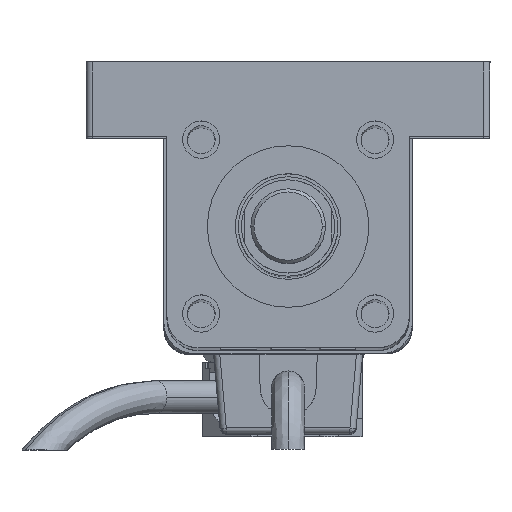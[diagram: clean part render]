
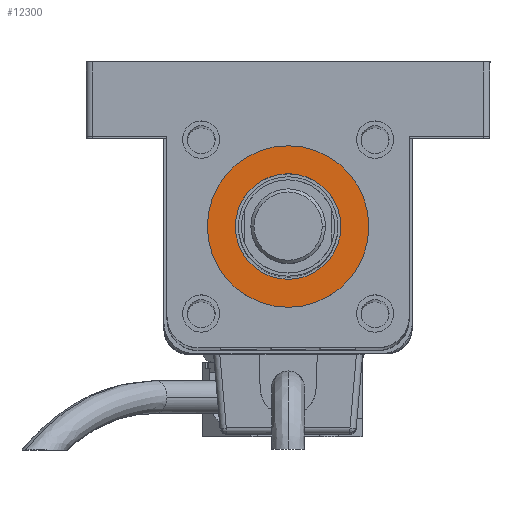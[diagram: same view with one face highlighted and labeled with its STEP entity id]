
A CAD part, top view. The second image highlights one B-rep face of the part: STEP entity #12300.
In plain terms, the highlighted planar face has unit normal (0, 0, 1) as drawn and (0, 0, -1) by its records, which use the part's own axes.
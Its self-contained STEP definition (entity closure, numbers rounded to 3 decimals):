
#32 = EDGE_LOOP ( 'NONE', ( #2343, #24050 ) ) ;
#656 = FACE_OUTER_BOUND ( 'NONE', #6384, .T. ) ;
#1198 = CARTESIAN_POINT ( 'NONE',  ( 6.5, -19.5, -3. ) ) ;
#1217 = CARTESIAN_POINT ( 'NONE',  ( 19.5, -19.5, -3. ) ) ;
#1958 = ORIENTED_EDGE ( 'NONE', *, *, #21818, .T. ) ;
#2343 = ORIENTED_EDGE ( 'NONE', *, *, #25795, .F. ) ;
#4324 = DIRECTION ( 'NONE',  ( -1., 0., 0. ) ) ;
#4441 = CIRCLE ( 'NONE', #7600, 8.5 ) ;
#4660 = DIRECTION ( 'NONE',  ( -1., 0., 0. ) ) ;
#5012 = VERTEX_POINT ( 'NONE', #9878 ) ;
#6293 = VERTEX_POINT ( 'NONE', #14860 ) ;
#6384 = EDGE_LOOP ( 'NONE', ( #23175, #1958 ) ) ;
#6415 = CIRCLE ( 'NONE', #19203, 8.5 ) ;
#7600 = AXIS2_PLACEMENT_3D ( 'NONE', #12876, #21632, #8478 ) ;
#8088 = DIRECTION ( 'NONE',  ( -1., 0., 0. ) ) ;
#8478 = DIRECTION ( 'NONE',  ( -1., 0., 0. ) ) ;
#8531 = EDGE_CURVE ( 'NONE', #6293, #23615, #6415, .T. ) ;
#9878 = CARTESIAN_POINT ( 'NONE',  ( 32.5, -19.5, -3. ) ) ;
#10183 = VERTEX_POINT ( 'NONE', #1198 ) ;
#10267 = DIRECTION ( 'NONE',  ( 0., 0., -1. ) ) ;
#11898 = AXIS2_PLACEMENT_3D ( 'NONE', #13402, #15833, #4324 ) ;
#12300 = ADVANCED_FACE ( 'NONE', ( #22852, #656 ), #16957, .T. ) ;
#12876 = CARTESIAN_POINT ( 'NONE',  ( 19.5, -19.5, -3. ) ) ;
#13402 = CARTESIAN_POINT ( 'NONE',  ( 19.5, -19.5, -3. ) ) ;
#14860 = CARTESIAN_POINT ( 'NONE',  ( 28., -19.5, -3. ) ) ;
#15784 = CARTESIAN_POINT ( 'NONE',  ( 19.5, -19.5, -3. ) ) ;
#15833 = DIRECTION ( 'NONE',  ( 0., 0., -1. ) ) ;
#16957 = PLANE ( 'NONE',  #17942 ) ;
#17691 = EDGE_CURVE ( 'NONE', #5012, #10183, #25047, .T. ) ;
#17942 = AXIS2_PLACEMENT_3D ( 'NONE', #1217, #10267, #8088 ) ;
#18134 = DIRECTION ( 'NONE',  ( 0., 0., -1. ) ) ;
#19203 = AXIS2_PLACEMENT_3D ( 'NONE', #15784, #18134, #4660 ) ;
#19783 = CARTESIAN_POINT ( 'NONE',  ( 11., -19.5, -3. ) ) ;
#21619 = CARTESIAN_POINT ( 'NONE',  ( 19.5, -19.5, -3. ) ) ;
#21632 = DIRECTION ( 'NONE',  ( 0., 0., -1. ) ) ;
#21818 = EDGE_CURVE ( 'NONE', #10183, #5012, #27489, .T. ) ;
#22012 = AXIS2_PLACEMENT_3D ( 'NONE', #21619, #23607, #23696 ) ;
#22852 = FACE_BOUND ( 'NONE', #32, .T. ) ;
#23175 = ORIENTED_EDGE ( 'NONE', *, *, #17691, .T. ) ;
#23607 = DIRECTION ( 'NONE',  ( 0., 0., -1. ) ) ;
#23615 = VERTEX_POINT ( 'NONE', #19783 ) ;
#23696 = DIRECTION ( 'NONE',  ( -1., 0., 0. ) ) ;
#24050 = ORIENTED_EDGE ( 'NONE', *, *, #8531, .F. ) ;
#25047 = CIRCLE ( 'NONE', #22012, 13. ) ;
#25795 = EDGE_CURVE ( 'NONE', #23615, #6293, #4441, .T. ) ;
#27489 = CIRCLE ( 'NONE', #11898, 13. ) ;
